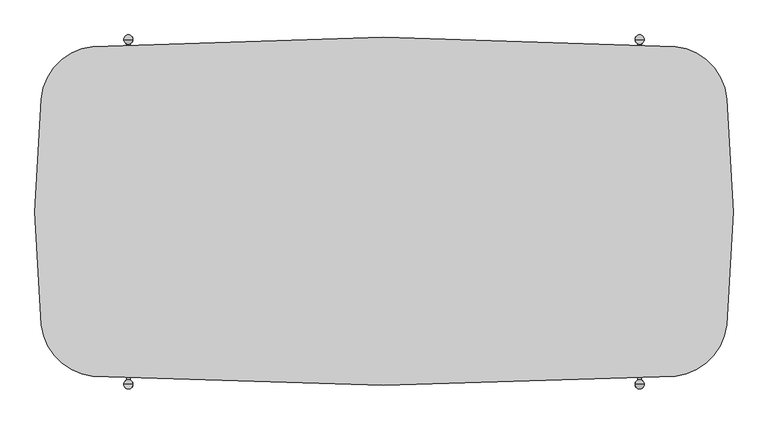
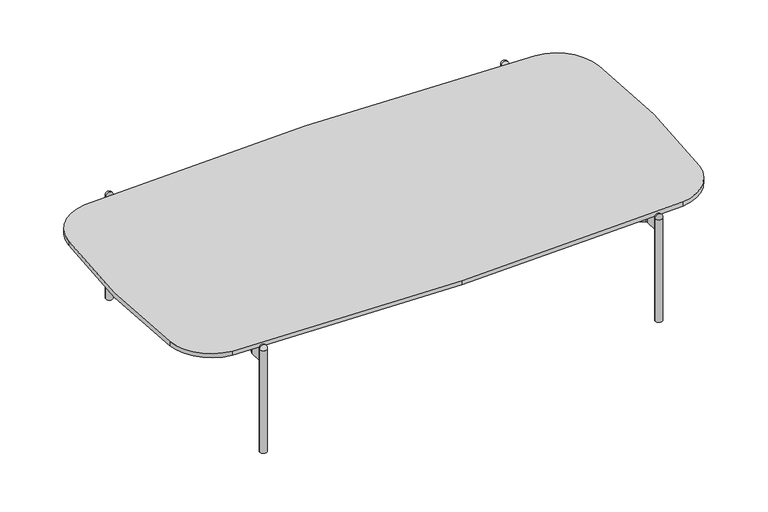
"""IFC4 building model written with IfcOpenShell, lengths in millimetres: furniture geometry, RECTANGULAR TABLE_H=25 : EI125B051260A_G."""

from ifc_helpers import new_model, si_unit, point, frame, frame_2d, origin, origin_with_axes, origin_2d, place, context, project, spatial, polyline, circle_curve, ellipse_curve, trimmed, segment, composite_curve, outline, extrude, source, transform, mapped, element, save
from ifc_brep_helpers import plane_surface, revolved_surface, advanced_brep


def furniture_0b7f0485(model_context):
    return source(origin(), model_context, "Body", "SolidModel", [
        extrude(outline(composite_curve([segment(trimmed(circle_curve(frame_2d((1.4867894, -7551.9223408)), 7852.9472692), [point((-501.2282373, 284.9174824))], [point((0.0, 301.0247877))], False, "CARTESIAN"), True, "CONTINUOUS"), segment(trimmed(circle_curve(frame_2d((-1.4864107, -7551.9341948)), 7852.9591231), [point((0.0, 301.0247877))], [point((501.2289946, 284.9174824))], False, "CARTESIAN"), True, "CONTINUOUS"), segment(trimmed(circle_curve(frame_2d((490.8143975, 186.2977874)), 99.1680799), [point((501.2289946, 284.9174824))], [point((589.6485198, 194.4294758))], False, "CARTESIAN"), True, "CONTINUOUS"), segment(trimmed(circle_curve(frame_2d((-1100.6810617, 0.8303345)), 1701.3802401), [point((589.6485198, 194.4294758))], [point((589.458748, -194.4185971))], False, "CARTESIAN"), True, "CONTINUOUS"), segment(trimmed(circle_curve(frame_2d((490.8143975, -184.2401787)), 99.1680799), [point((589.458748, -194.4185971))], [point((501.2289947, -282.8598737))], False, "CARTESIAN"), True, "CONTINUOUS"), segment(trimmed(circle_curve(frame_2d((-1.4864107, 7553.991804)), 7852.9591237), [point((501.2289947, -282.8598737))], [point((0.0003787, -298.9671789))], False, "CARTESIAN"), True, "CONTINUOUS"), segment(trimmed(circle_curve(frame_2d((1.4871681, 7553.9918036)), 7852.9591232), [point((0.0003787, -298.9671789))], [point((-501.2282372, -282.8598737))], False, "CARTESIAN"), True, "CONTINUOUS"), segment(trimmed(circle_curve(frame_2d((-490.8136401, -184.2401787)), 99.1680799), [point((-501.2282372, -282.8598737))], [point((-589.4579906, -194.4185972))], False, "CARTESIAN"), True, "CONTINUOUS"), segment(trimmed(circle_curve(frame_2d((1100.6818191, 0.8303345)), 1701.3802401), [point((-589.4579906, -194.4185972))], [point((-589.6477624, 194.4294758))], False, "CARTESIAN"), True, "CONTINUOUS"), segment(trimmed(circle_curve(frame_2d((-490.8136401, 186.2977874)), 99.1680799), [point((-589.6477624, 194.4294758))], [point((-501.2282373, 284.9174824))], False, "CARTESIAN"), True, "CONTINUOUS")], self_intersect=False)), frame((0.0, 0.0, 237.6939464), z_axis=(0.0, 0.0, 1.0), x_axis=(1.0, 0.0, 0.0)), (0.0, 0.0, 1.0), 10.0),
        advanced_brep(
        [(-440.0, 297.05, 249.1666667), (-432.0, 297.05, 241.1666667), (-448.0, 297.05, 241.1666667), (-440.0, 297.05, 241.1666667)],
        [
            (0, 1, circle_curve(frame((-440.0, 297.05, 241.1666667), z_axis=(0.0, 1.0, 0.0), x_axis=(1.0, 0.0, 0.0)), 8.0)),
            (1, 2, circle_curve(frame((-440.0, 297.05, 241.1666667), z_axis=(0.0, 0.0, 1.0), x_axis=(1.0, 0.0, 0.0)), 8.0)),
            (2, 0, circle_curve(frame((-440.0, 297.05, 241.1666667), z_axis=(0.0, 1.0, 0.0), x_axis=(-1.0, 0.0, 0.0)), 8.0)),
            (2, 1, circle_curve(frame((-440.0, 297.05, 241.1666667), z_axis=(0.0, 0.0, 1.0), x_axis=(1.0, 0.0, 0.0)), 8.0)),
            (1, 3),
            (3, 2),
        ],
        [
            revolved_surface(trimmed(ellipse_curve(frame((-440.0, 297.05, 241.1666667), z_axis=(0.0, -1.0, 0.0), x_axis=(1.0, 0.0, 0.0)), 8.0, 8.0), [point((-432.0, 297.05, 241.1666667))], [point((-440.0, 297.05, 249.1666667))], True, "CARTESIAN"), (-440.0, 297.05, 2438.4), (0.0, 0.0, 1.0)),
            plane_surface(frame((-440.0, 297.05, 241.1666667), z_axis=(0.0, 0.0, -1.0), x_axis=(1.0, 0.0, 0.0))),
        ],
        [
            (0, [[1, 2, 3]]),
            (0, [[-3, 4, -1]]),
            (1, [[-2, 5, 6]]),
            (1, [[-4, -6, -5]]),
        ],
    ),
        advanced_brep(
        [(-448.0, -297.05, 241.1666667), (-432.0, -297.05, 241.1666667), (-440.0, -297.05, 249.1666667), (-440.0, -297.05, 241.1666667)],
        [
            (0, 1, circle_curve(frame((-440.0, -297.05, 241.1666667), z_axis=(0.0, 0.0, 1.0), x_axis=(1.0, 0.0, 0.0)), 8.0)),
            (1, 2, circle_curve(frame((-440.0, -297.05, 241.1666667), z_axis=(0.0, -1.0, 0.0), x_axis=(1.0, 0.0, 0.0)), 8.0)),
            (2, 0, circle_curve(frame((-440.0, -297.05, 241.1666667), z_axis=(0.0, -1.0, 0.0), x_axis=(-1.0, 0.0, 0.0)), 8.0)),
            (1, 0, circle_curve(frame((-440.0, -297.05, 241.1666667), z_axis=(0.0, 0.0, 1.0), x_axis=(1.0, 0.0, 0.0)), 8.0)),
            (3, 1),
            (0, 3),
        ],
        [
            revolved_surface(trimmed(ellipse_curve(frame((-440.0, -297.05, 241.1666667), z_axis=(0.0, 1.0, 0.0), x_axis=(1.0, 0.0, 0.0)), 8.0, 8.0), [point((-440.0, -297.05, 249.1666667))], [point((-432.0, -297.05, 241.1666667))], True, "CARTESIAN"), (-440.0, -297.05, 2438.4), (0.0, 0.0, -1.0)),
            plane_surface(frame((-440.0, -297.05, 241.1666667), z_axis=(0.0, 0.0, -1.0), x_axis=(1.0, 0.0, 0.0))),
        ],
        [
            (0, [[1, 2, 3]]),
            (0, [[4, -3, -2]]),
            (1, [[5, -1, 6]]),
            (1, [[-6, -4, -5]]),
        ],
    ),
        advanced_brep(
        [(448.0, 297.05, 241.1666667), (432.0, 297.05, 241.1666667), (440.0, 297.05, 249.1666667), (440.0, 297.05, 241.1666667)],
        [
            (0, 1, circle_curve(frame((440.0, 297.05, 241.1666667), z_axis=(0.0, 0.0, 1.0), x_axis=(-1.0, 0.0, 0.0)), 8.0)),
            (1, 2, circle_curve(frame((440.0, 297.05, 241.1666667), z_axis=(0.0, 1.0, 0.0), x_axis=(-1.0, 0.0, 0.0)), 8.0)),
            (2, 0, circle_curve(frame((440.0, 297.05, 241.1666667), z_axis=(0.0, 1.0, 0.0), x_axis=(1.0, 0.0, 0.0)), 8.0)),
            (1, 0, circle_curve(frame((440.0, 297.05, 241.1666667), z_axis=(0.0, 0.0, 1.0), x_axis=(-1.0, 0.0, 0.0)), 8.0)),
            (3, 1),
            (0, 3),
        ],
        [
            revolved_surface(trimmed(ellipse_curve(frame((440.0, 297.05, 241.1666667), z_axis=(0.0, -1.0, 0.0), x_axis=(-1.0, 0.0, 0.0)), 8.0, 8.0), [point((440.0, 297.05, 249.1666667))], [point((432.0, 297.05, 241.1666667))], True, "CARTESIAN"), (440.0, 297.05, 2438.4), (0.0, 0.0, -1.0)),
            plane_surface(frame((440.0, 297.05, 241.1666667), z_axis=(0.0, 0.0, -1.0), x_axis=(-1.0, 0.0, 0.0))),
        ],
        [
            (0, [[1, 2, 3]]),
            (0, [[4, -3, -2]]),
            (1, [[5, -1, 6]]),
            (1, [[-6, -4, -5]]),
        ],
    ),
        advanced_brep(
        [(440.0, -297.05, 249.1666667), (432.0, -297.05, 241.1666667), (448.0, -297.05, 241.1666667), (440.0, -297.05, 241.1666667)],
        [
            (0, 1, circle_curve(frame((440.0, -297.05, 241.1666667), z_axis=(0.0, -1.0, 0.0), x_axis=(-1.0, 0.0, 0.0)), 8.0)),
            (1, 2, circle_curve(frame((440.0, -297.05, 241.1666667), z_axis=(0.0, 0.0, 1.0), x_axis=(-1.0, 0.0, 0.0)), 8.0)),
            (2, 0, circle_curve(frame((440.0, -297.05, 241.1666667), z_axis=(0.0, -1.0, 0.0), x_axis=(1.0, 0.0, 0.0)), 8.0)),
            (2, 1, circle_curve(frame((440.0, -297.05, 241.1666667), z_axis=(0.0, 0.0, 1.0), x_axis=(-1.0, 0.0, 0.0)), 8.0)),
            (1, 3),
            (3, 2),
        ],
        [
            revolved_surface(trimmed(ellipse_curve(frame((440.0, -297.05, 241.1666667), z_axis=(0.0, 1.0, 0.0), x_axis=(-1.0, 0.0, 0.0)), 8.0, 8.0), [point((432.0, -297.05, 241.1666667))], [point((440.0, -297.05, 249.1666667))], True, "CARTESIAN"), (440.0, -297.05, 2438.4), (0.0, 0.0, 1.0)),
            plane_surface(frame((440.0, -297.05, 241.1666667), z_axis=(0.0, 0.0, -1.0), x_axis=(-1.0, 0.0, 0.0))),
        ],
        [
            (0, [[1, 2, 3]]),
            (0, [[-3, 4, -1]]),
            (1, [[-2, 5, 6]]),
            (1, [[-4, -6, -5]]),
        ],
    ),
        extrude(outline(composite_curve([segment(polyline([(-6.9637785, 7.7823268), (-9.9637785, 2.5861743), (-437.9764804, 249.699423)]), True, "CONTINUOUS"), segment(trimmed(circle_curve(frame_2d((-432.9764804, 258.359677)), 10.0), [point((-437.9764804, 249.699423))], [point((-442.9764804, 258.359677))], False, "CARTESIAN"), True, "CONTINUOUS"), segment(polyline([(-442.9764804, 258.359677), (-442.9764804, 289.6243307)]), True, "CONTINUOUS"), segment(trimmed(circle_curve(frame_2d((-440.0, 297.05)), 8.0), [point((-442.9764804, 289.6243307))], [point((-436.9764804, 289.6433591))], True, "CARTESIAN"), True, "CONTINUOUS"), segment(polyline([(-436.9764804, 289.6433591), (-436.9764804, 258.359677)]), True, "CONTINUOUS"), segment(trimmed(circle_curve(frame_2d((-432.9764804, 258.359677)), 4.0), [point((-436.9764804, 258.359677))], [point((-434.9764804, 254.8955754))], True, "CARTESIAN"), True, "CONTINUOUS"), segment(polyline([(-434.9764804, 254.8955754), (-6.9637785, 7.7823268)]), True, "CONTINUOUS")], self_intersect=False)), frame((0.0, 0.0, 207.6939464), z_axis=(0.0, 0.0, 1.0), x_axis=(1.0, 0.0, 0.0)), (0.0, 0.0, 1.0), 30.0),
        extrude(outline(composite_curve([segment(polyline([(6.9637785, 7.7823268), (434.9764804, 254.8955754)]), True, "CONTINUOUS"), segment(trimmed(circle_curve(frame_2d((432.9764804, 258.359677)), 4.0), [point((434.9764804, 254.8955754))], [point((436.9764804, 258.359677))], True, "CARTESIAN"), True, "CONTINUOUS"), segment(polyline([(436.9764804, 258.359677), (436.9764804, 289.6433591)]), True, "CONTINUOUS"), segment(trimmed(circle_curve(frame_2d((440.0, 297.05)), 8.0), [point((436.9764804, 289.6433591))], [point((442.9764804, 289.6243307))], True, "CARTESIAN"), True, "CONTINUOUS"), segment(polyline([(442.9764804, 289.6243307), (442.9764804, 258.359677)]), True, "CONTINUOUS"), segment(trimmed(circle_curve(frame_2d((432.9764804, 258.359677)), 10.0), [point((442.9764804, 258.359677))], [point((437.9764804, 249.699423))], False, "CARTESIAN"), True, "CONTINUOUS"), segment(polyline([(437.9764804, 249.699423), (9.9637785, 2.5861743), (6.9637785, 7.7823268)]), True, "CONTINUOUS")], self_intersect=False)), frame((0.0, 0.0, 207.6939464), z_axis=(0.0, 0.0, 1.0), x_axis=(1.0, 0.0, 0.0)), (0.0, 0.0, 1.0), 30.0),
        extrude(outline(composite_curve([segment(polyline([(-6.9637785, -7.7823268), (-434.9764804, -254.8955754)]), True, "CONTINUOUS"), segment(trimmed(circle_curve(frame_2d((-432.9764804, -258.359677)), 4.0), [point((-434.9764804, -254.8955754))], [point((-436.9764804, -258.359677))], True, "CARTESIAN"), True, "CONTINUOUS"), segment(polyline([(-436.9764804, -258.359677), (-436.9764804, -289.6433591)]), True, "CONTINUOUS"), segment(trimmed(circle_curve(frame_2d((-440.0, -297.05)), 8.0), [point((-436.9764804, -289.6433591))], [point((-442.9764804, -289.6243307))], True, "CARTESIAN"), True, "CONTINUOUS"), segment(polyline([(-442.9764804, -289.6243307), (-442.9764804, -258.359677)]), True, "CONTINUOUS"), segment(trimmed(circle_curve(frame_2d((-432.9764804, -258.359677)), 10.0), [point((-442.9764804, -258.359677))], [point((-437.9764804, -249.699423))], False, "CARTESIAN"), True, "CONTINUOUS"), segment(polyline([(-437.9764804, -249.699423), (-9.9637785, -2.5861743), (-6.9637785, -7.7823268)]), True, "CONTINUOUS")], self_intersect=False)), frame((0.0, 0.0, 207.6939464), z_axis=(0.0, 0.0, 1.0), x_axis=(1.0, 0.0, 0.0)), (0.0, 0.0, 1.0), 30.0),
        extrude(outline(composite_curve([segment(polyline([(6.9637785, -7.7823268), (9.9637785, -2.5861743), (437.9764804, -249.699423)]), True, "CONTINUOUS"), segment(trimmed(circle_curve(frame_2d((432.9764804, -258.359677)), 10.0), [point((437.9764804, -249.699423))], [point((442.9764804, -258.359677))], False, "CARTESIAN"), True, "CONTINUOUS"), segment(polyline([(442.9764804, -258.359677), (442.9764804, -289.6243307)]), True, "CONTINUOUS"), segment(trimmed(circle_curve(frame_2d((440.0, -297.05)), 8.0), [point((442.9764804, -289.6243307))], [point((436.9764804, -289.6433591))], True, "CARTESIAN"), True, "CONTINUOUS"), segment(polyline([(436.9764804, -289.6433591), (436.9764804, -258.359677)]), True, "CONTINUOUS"), segment(trimmed(circle_curve(frame_2d((432.9764804, -258.359677)), 4.0), [point((436.9764804, -258.359677))], [point((434.9764804, -254.8955754))], True, "CARTESIAN"), True, "CONTINUOUS"), segment(polyline([(434.9764804, -254.8955754), (6.9637785, -7.7823268)]), True, "CONTINUOUS")], self_intersect=False)), frame((0.0, 0.0, 207.6939464), z_axis=(0.0, 0.0, 1.0), x_axis=(1.0, 0.0, 0.0)), (0.0, 0.0, 1.0), 30.0),
        extrude(outline(composite_curve([segment(trimmed(circle_curve(origin_2d(), 23.0), [point((-23.0, 0.0))], [point((23.0, 0.0))], False, "CARTESIAN"), True, "CONTINUOUS"), segment(trimmed(circle_curve(origin_2d(), 23.0), [point((23.0, 0.0))], [point((-23.0, 0.0))], False, "CARTESIAN"), True, "CONTINUOUS")], self_intersect=False)), frame((0.0, 0.0, 207.6939464), z_axis=(0.0, 0.0, 1.0), x_axis=(1.0, 0.0, 0.0)), (0.0, 0.0, 1.0), 30.0),
        extrude(outline(composite_curve([segment(trimmed(circle_curve(frame_2d((440.0, 297.05)), 8.0), [point((432.0, 297.05))], [point((448.0, 297.05))], False, "CARTESIAN"), True, "CONTINUOUS"), segment(trimmed(circle_curve(frame_2d((440.0, 297.05)), 8.0), [point((448.0, 297.05))], [point((432.0, 297.05))], False, "CARTESIAN"), True, "CONTINUOUS")], self_intersect=False)), origin_with_axes(), (0.0, 0.0, 1.0), 241.1666667),
        extrude(outline(composite_curve([segment(trimmed(circle_curve(frame_2d((440.0, -297.05)), 8.0), [point((432.0, -297.05))], [point((448.0, -297.05))], False, "CARTESIAN"), True, "CONTINUOUS"), segment(trimmed(circle_curve(frame_2d((440.0, -297.05)), 8.0), [point((448.0, -297.05))], [point((432.0, -297.05))], False, "CARTESIAN"), True, "CONTINUOUS")], self_intersect=False)), origin_with_axes(), (0.0, 0.0, 1.0), 241.1666667),
        extrude(outline(composite_curve([segment(trimmed(circle_curve(frame_2d((-440.0, 297.05)), 8.0), [point((-448.0, 297.05))], [point((-432.0, 297.05))], False, "CARTESIAN"), True, "CONTINUOUS"), segment(trimmed(circle_curve(frame_2d((-440.0, 297.05)), 8.0), [point((-432.0, 297.05))], [point((-448.0, 297.05))], False, "CARTESIAN"), True, "CONTINUOUS")], self_intersect=False)), origin_with_axes(), (0.0, 0.0, 1.0), 241.1666667),
        extrude(outline(composite_curve([segment(trimmed(circle_curve(frame_2d((-440.0, -297.05)), 8.0), [point((-448.0, -297.05))], [point((-432.0, -297.05))], False, "CARTESIAN"), True, "CONTINUOUS"), segment(trimmed(circle_curve(frame_2d((-440.0, -297.05)), 8.0), [point((-432.0, -297.05))], [point((-448.0, -297.05))], False, "CARTESIAN"), True, "CONTINUOUS")], self_intersect=False)), origin_with_axes(), (0.0, 0.0, 1.0), 241.1666667),
    ])


if __name__ == "__main__":
    model = new_model("IFC4")
    model_context = context("Model", 3, world=origin())
    ifc_project = project(units=[si_unit("LENGTHUNIT", "METRE", prefix="MILLI")], contexts=[model_context])
    site = spatial("IfcSite", under=ifc_project)
    building = spatial("IfcBuilding", under=site)
    placement = place(None, origin())
    furniture_shape = furniture_0b7f0485(model_context)
    element("IfcFurniture", 1, ObjectType="RECTANGULAR TABLE_H=25 : EI125B051260A_G", at=placement, inside=building, context=model_context, shape_type="MappedRepresentation", body=[
        mapped(furniture_shape, transform((0.0, 0.0, 0.0), x_axis=(1.0, 0.0, 0.0), y_axis=(0.0, 1.0, 0.0), z_axis=(0.0, 0.0, 1.0))),
    ])
    save(model, "model.ifc")
